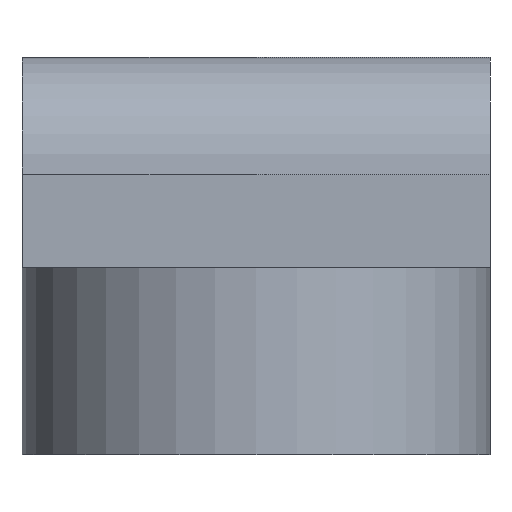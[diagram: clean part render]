
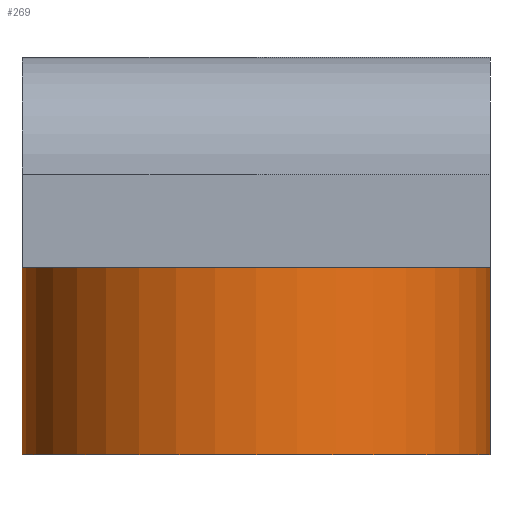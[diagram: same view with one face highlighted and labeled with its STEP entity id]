
A CAD part, left-side view. The second image highlights one B-rep face of the part: STEP entity #269.
In plain terms, the highlighted cylindrical face has radius 5 mm (diameter 10 mm), a partial arc.
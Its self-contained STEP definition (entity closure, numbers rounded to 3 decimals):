
#17=CYLINDRICAL_SURFACE('',#310,5.);
#31=FACE_OUTER_BOUND('',#49,.T.);
#49=EDGE_LOOP('',(#201,#202,#203,#204));
#67=CIRCLE('',#306,5.);
#71=CIRCLE('',#311,5.);
#79=LINE('',#418,#102);
#87=LINE('',#447,#110);
#102=VECTOR('',#335,10.);
#110=VECTOR('',#361,10.);
#125=VERTEX_POINT('',#416);
#126=VERTEX_POINT('',#417);
#134=VERTEX_POINT('',#435);
#138=VERTEX_POINT('',#445);
#149=EDGE_CURVE('',#125,#126,#79,.T.);
#158=EDGE_CURVE('',#134,#125,#67,.T.);
#163=EDGE_CURVE('',#126,#138,#71,.T.);
#164=EDGE_CURVE('',#138,#134,#87,.T.);
#201=ORIENTED_EDGE('',*,*,#163,.T.);
#202=ORIENTED_EDGE('',*,*,#164,.T.);
#203=ORIENTED_EDGE('',*,*,#158,.T.);
#204=ORIENTED_EDGE('',*,*,#149,.T.);
#269=ADVANCED_FACE('',(#31),#17,.T.);
#306=AXIS2_PLACEMENT_3D('',#436,#348,#349);
#310=AXIS2_PLACEMENT_3D('',#444,#357,#358);
#311=AXIS2_PLACEMENT_3D('',#446,#359,#360);
#335=DIRECTION('',(0.,0.,1.));
#348=DIRECTION('center_axis',(0.,0.,1.));
#349=DIRECTION('ref_axis',(-0.707,-0.707,0.));
#357=DIRECTION('center_axis',(0.,0.,1.));
#358=DIRECTION('ref_axis',(-0.707,0.707,0.));
#359=DIRECTION('center_axis',(0.,0.,-1.));
#360=DIRECTION('ref_axis',(-0.707,0.707,0.));
#361=DIRECTION('',(0.,0.,-1.));
#416=CARTESIAN_POINT('',(-7.5,-5.,0.));
#417=CARTESIAN_POINT('',(-7.5,-5.,4.));
#418=CARTESIAN_POINT('',(-7.5,-5.,2.125));
#435=CARTESIAN_POINT('',(-7.5,5.,0.));
#436=CARTESIAN_POINT('Origin',(-7.5,0.,0.));
#444=CARTESIAN_POINT('Origin',(-7.5,0.,2.125));
#445=CARTESIAN_POINT('',(-7.5,5.,4.));
#446=CARTESIAN_POINT('Origin',(-7.5,0.,4.));
#447=CARTESIAN_POINT('',(-7.5,5.,2.125));
